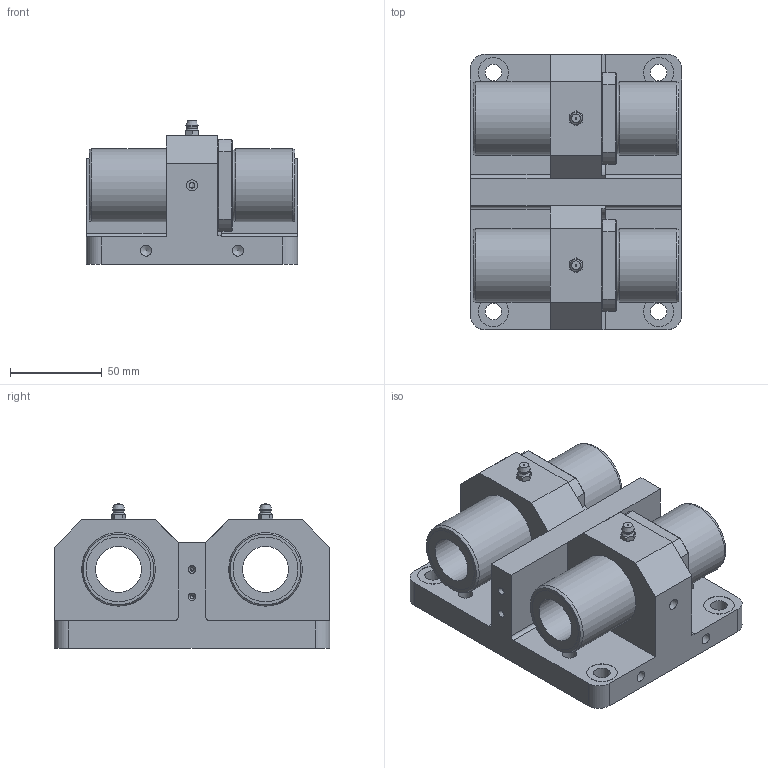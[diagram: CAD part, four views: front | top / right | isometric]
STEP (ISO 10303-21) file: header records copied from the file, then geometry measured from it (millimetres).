
FILE_DESCRIPTION((''),'2;1');
FILE_NAME('D:\製品 (図面)\カタログ用3D\リニアベアリング関連\STEP形式\LUFD\LUFD25.stp','2010-07-29T14:34:25',('Tsuchiya'),(''),'Autodesk Inventor 10','Autodesk Inventor 10','');
FILE_SCHEMA(('AUTOMOTIVE_DESIGN { 1 0 10303 214 1 1 1 1 }'));
Length unit declared in the file: millimetre
Products named in the file (4): LUFD25; LUFD251; LUFD252; LUFD253
Assembly tree (3 placements, depth 2):
  LUFD25
    LUFD251
    LUFD252
    LUFD253
Bounding box: 115 x 150 x 78.8 mm (x, y, z)
Volume: 638426.8 mm3; surface area: 134478.6 mm2
Topology: 13 solids, 13 shells, 398 faces, 894 edges, 566 vertices
Faces by surface type: plane 160, bspline 83, cylinder 75, cone 64, torus 12, sphere 4
Full cylindrical faces by diameter (mm): 3 x3, 5 x12, 6 x4, 8 x2, 8.5 x8, 9 x2, 16.5 x2, 25 x2, 35.3 x4, 40 x7
Entity records: 12254 total; most frequent: CARTESIAN_POINT 4684, DIRECTION 1446, ORIENTED_EDGE 1360, EDGE_CURVE 680, EDGE_LOOP 648, AXIS2_PLACEMENT_3D 600, VERTEX_POINT 510, FACE_OUTER_BOUND 398
